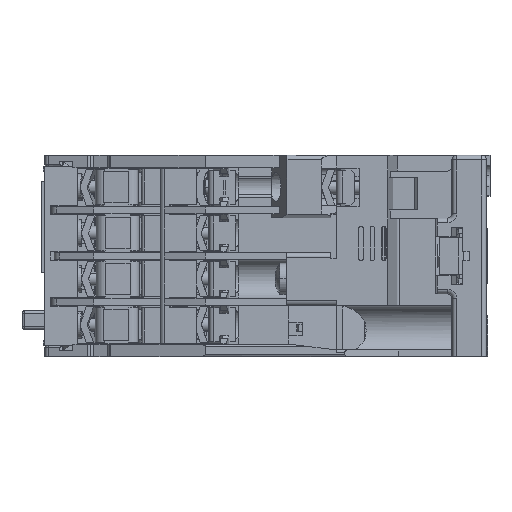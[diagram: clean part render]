
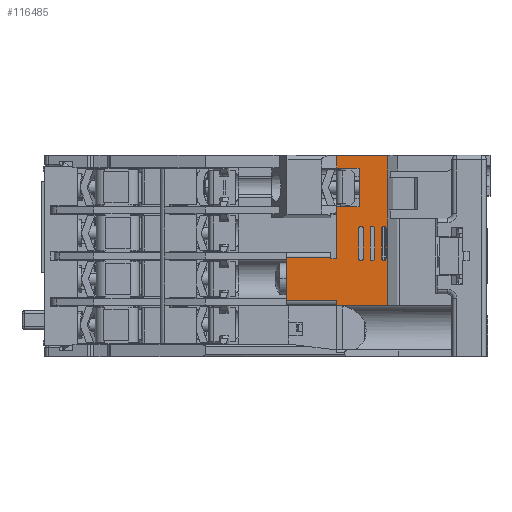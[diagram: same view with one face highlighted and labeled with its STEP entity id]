
A CAD part, left-side view. The second image highlights one B-rep face of the part: STEP entity #116485.
In plain terms, the highlighted planar face has unit normal (-1, 0, 0).
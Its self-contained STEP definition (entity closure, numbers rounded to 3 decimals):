
#9175=DIRECTION('',(0.,1.,0.));
#9176=VECTOR('',#9175,11.);
#9177=CARTESIAN_POINT('',(-38.,-28.7,-9.75));
#9178=LINE('',#9177,#9176);
#9179=DIRECTION('',(0.,0.,1.));
#9180=VECTOR('',#9179,1.);
#9181=CARTESIAN_POINT('',(-38.,-28.7,-10.75));
#9182=LINE('',#9181,#9180);
#9187=DIRECTION('',(0.,1.,0.));
#9188=VECTOR('',#9187,4.9);
#9189=CARTESIAN_POINT('',(-38.,-33.6,10.8));
#9190=LINE('',#9189,#9188);
#9191=DIRECTION('',(0.,0.,-1.));
#9192=VECTOR('',#9191,8.4);
#9193=CARTESIAN_POINT('',(-38.,-33.6,19.2));
#9194=LINE('',#9193,#9192);
#9195=DIRECTION('',(0.,1.,0.));
#9196=VECTOR('',#9195,11.146);
#9197=CARTESIAN_POINT('',(-38.,-39.846,22.));
#9198=LINE('',#9197,#9196);
#9199=DIRECTION('',(0.,0.,1.));
#9200=VECTOR('',#9199,3.45);
#9201=CARTESIAN_POINT('',(-38.,-39.846,18.55));
#9202=LINE('',#9201,#9200);
#9203=DIRECTION('',(0.,-1.,0.));
#9204=VECTOR('',#9203,0.03);
#9205=CARTESIAN_POINT('',(-38.,-39.846,10.05));
#9206=LINE('',#9205,#9204);
#9207=DIRECTION('',(0.,0.,1.));
#9208=VECTOR('',#9207,20.8);
#9209=CARTESIAN_POINT('',(-38.,-39.846,-10.75));
#9210=LINE('',#9209,#9208);
#9211=DIRECTION('',(0.,-1.,0.));
#9212=VECTOR('',#9211,11.146);
#9213=CARTESIAN_POINT('',(-38.,-28.7,-10.75));
#9214=LINE('',#9213,#9212);
#9215=DIRECTION('',(0.,0.,-1.));
#9216=VECTOR('',#9215,9.5);
#9217=CARTESIAN_POINT('',(-38.,-17.7,-0.25));
#9218=LINE('',#9217,#9216);
#9219=DIRECTION('',(0.,0.,1.));
#9220=VECTOR('',#9219,0.3);
#9221=CARTESIAN_POINT('',(-38.,-27.4,-0.55));
#9222=LINE('',#9221,#9220);
#9223=CARTESIAN_POINT('',(-38.,-39.,-0.5));
#9224=DIRECTION('',(1.,0.,0.));
#9225=DIRECTION('',(0.,-1.,0.));
#9226=AXIS2_PLACEMENT_3D('',#9223,#9224,#9225);
#9228=DIRECTION('',(0.,0.,-1.));
#9229=VECTOR('',#9228,6.5);
#9230=CARTESIAN_POINT('',(-38.,-39.5,6.));
#9231=LINE('',#9230,#9229);
#9232=CARTESIAN_POINT('',(-38.,-39.,6.));
#9233=DIRECTION('',(1.,0.,0.));
#9234=DIRECTION('',(0.,1.,0.));
#9235=AXIS2_PLACEMENT_3D('',#9232,#9233,#9234);
#9237=CARTESIAN_POINT('',(-38.,-36.5,-0.5));
#9238=DIRECTION('',(1.,0.,0.));
#9239=DIRECTION('',(0.,-1.,0.));
#9240=AXIS2_PLACEMENT_3D('',#9237,#9238,#9239);
#9242=DIRECTION('',(0.,0.,-1.));
#9243=VECTOR('',#9242,6.5);
#9244=CARTESIAN_POINT('',(-38.,-37.,6.));
#9245=LINE('',#9244,#9243);
#9246=CARTESIAN_POINT('',(-38.,-36.5,6.));
#9247=DIRECTION('',(1.,0.,0.));
#9248=DIRECTION('',(0.,1.,0.));
#9249=AXIS2_PLACEMENT_3D('',#9246,#9247,#9248);
#9251=CARTESIAN_POINT('',(-38.,-34.,-0.5));
#9252=DIRECTION('',(1.,0.,0.));
#9253=DIRECTION('',(0.,-1.,0.));
#9254=AXIS2_PLACEMENT_3D('',#9251,#9252,#9253);
#9256=DIRECTION('',(0.,0.,-1.));
#9257=VECTOR('',#9256,6.5);
#9258=CARTESIAN_POINT('',(-38.,-34.5,6.));
#9259=LINE('',#9258,#9257);
#9260=CARTESIAN_POINT('',(-38.,-34.,6.));
#9261=DIRECTION('',(1.,0.,0.));
#9262=DIRECTION('',(0.,1.,0.));
#9263=AXIS2_PLACEMENT_3D('',#9260,#9261,#9262);
#9269=DIRECTION('',(0.,-1.,0.));
#9270=VECTOR('',#9269,1.3);
#9271=CARTESIAN_POINT('',(-38.,-27.4,-0.55));
#9272=LINE('',#9271,#9270);
#9281=DIRECTION('',(0.,0.,1.));
#9282=VECTOR('',#9281,11.35);
#9283=CARTESIAN_POINT('',(-38.,-28.7,-0.55));
#9284=LINE('',#9283,#9282);
#12364=DIRECTION('',(0.,0.,-1.));
#12365=VECTOR('',#12364,8.5);
#12366=CARTESIAN_POINT('',(-38.,-39.876,18.55));
#12367=LINE('',#12366,#12365);
#37107=DIRECTION('',(0.,0.,-1.));
#37108=VECTOR('',#37107,6.5);
#37109=CARTESIAN_POINT('',(-38.,-38.5,6.));
#37110=LINE('',#37109,#37108);
#39896=DIRECTION('',(0.,-1.,0.));
#39897=VECTOR('',#39896,0.03);
#39898=CARTESIAN_POINT('',(-38.,-39.846,18.55));
#39899=LINE('',#39898,#39897);
#43218=DIRECTION('',(0.,1.,0.));
#43219=VECTOR('',#43218,4.9);
#43220=CARTESIAN_POINT('',(-38.,-33.6,19.2));
#43221=LINE('',#43220,#43219);
#43261=DIRECTION('',(0.,0.,1.));
#43262=VECTOR('',#43261,2.8);
#43263=CARTESIAN_POINT('',(-38.,-28.7,19.2));
#43264=LINE('',#43263,#43262);
#45301=DIRECTION('',(0.,-1.,0.));
#45302=VECTOR('',#45301,9.7);
#45303=CARTESIAN_POINT('',(-38.,-17.7,-0.25));
#45304=LINE('',#45303,#45302);
#72887=DIRECTION('',(0.,0.,-1.));
#72888=VECTOR('',#72887,6.5);
#72889=CARTESIAN_POINT('',(-38.,-33.5,6.));
#72890=LINE('',#72889,#72888);
#72911=DIRECTION('',(0.,0.,-1.));
#72912=VECTOR('',#72911,6.5);
#72913=CARTESIAN_POINT('',(-38.,-36.,6.));
#72914=LINE('',#72913,#72912);
#90665=CARTESIAN_POINT('',(-38.,-17.7,-0.25));
#90666=CARTESIAN_POINT('',(-38.,-17.7,-9.75));
#90667=VERTEX_POINT('',#90665);
#90668=VERTEX_POINT('',#90666);
#90679=CARTESIAN_POINT('',(-38.,-27.4,-0.55));
#90680=CARTESIAN_POINT('',(-38.,-27.4,-0.25));
#90681=VERTEX_POINT('',#90679);
#90682=VERTEX_POINT('',#90680);
#95351=CARTESIAN_POINT('',(-38.,-39.846,22.));
#95352=VERTEX_POINT('',#95351);
#95353=CARTESIAN_POINT('',(-38.,-39.846,18.55));
#95354=VERTEX_POINT('',#95353);
#96017=CARTESIAN_POINT('',(-38.,-33.5,6.));
#96018=VERTEX_POINT('',#96017);
#96019=CARTESIAN_POINT('',(-38.,-33.5,-0.5));
#96020=VERTEX_POINT('',#96019);
#96021=CARTESIAN_POINT('',(-38.,-34.5,6.));
#96022=CARTESIAN_POINT('',(-38.,-34.5,-0.5));
#96023=VERTEX_POINT('',#96021);
#96024=VERTEX_POINT('',#96022);
#96029=CARTESIAN_POINT('',(-38.,-36.,6.));
#96030=CARTESIAN_POINT('',(-38.,-36.,-0.5));
#96031=VERTEX_POINT('',#96029);
#96032=VERTEX_POINT('',#96030);
#96037=CARTESIAN_POINT('',(-38.,-37.,6.));
#96038=CARTESIAN_POINT('',(-38.,-37.,-0.5));
#96039=VERTEX_POINT('',#96037);
#96040=VERTEX_POINT('',#96038);
#96045=CARTESIAN_POINT('',(-38.,-38.5,6.));
#96046=CARTESIAN_POINT('',(-38.,-38.5,-0.5));
#96047=VERTEX_POINT('',#96045);
#96048=VERTEX_POINT('',#96046);
#96053=CARTESIAN_POINT('',(-38.,-39.5,6.));
#96054=CARTESIAN_POINT('',(-38.,-39.5,-0.5));
#96055=VERTEX_POINT('',#96053);
#96056=VERTEX_POINT('',#96054);
#96099=CARTESIAN_POINT('',(-38.,-33.6,10.8));
#96100=VERTEX_POINT('',#96099);
#96101=CARTESIAN_POINT('',(-38.,-33.6,19.2));
#96102=VERTEX_POINT('',#96101);
#96105=CARTESIAN_POINT('',(-38.,-28.7,10.8));
#96106=VERTEX_POINT('',#96105);
#96107=CARTESIAN_POINT('',(-38.,-28.7,19.2));
#96108=VERTEX_POINT('',#96107);
#96185=CARTESIAN_POINT('',(-38.,-39.846,-10.75));
#96186=VERTEX_POINT('',#96185);
#96187=CARTESIAN_POINT('',(-38.,-28.7,-10.75));
#96188=VERTEX_POINT('',#96187);
#96812=CARTESIAN_POINT('',(-38.,-28.7,22.));
#96813=VERTEX_POINT('',#96812);
#96830=CARTESIAN_POINT('',(-38.,-39.846,10.05));
#96831=VERTEX_POINT('',#96830);
#96832=CARTESIAN_POINT('',(-38.,-39.876,10.05));
#96833=VERTEX_POINT('',#96832);
#96834=CARTESIAN_POINT('',(-38.,-39.876,18.55));
#96835=VERTEX_POINT('',#96834);
#97560=CARTESIAN_POINT('',(-38.,-28.7,-0.55));
#97561=VERTEX_POINT('',#97560);
#97567=CARTESIAN_POINT('',(-38.,-28.7,-9.75));
#97569=VERTEX_POINT('',#97567);
#116415=CARTESIAN_POINT('',(-38.,-28.7,-10.6));
#116416=DIRECTION('',(-1.,0.,0.));
#116417=DIRECTION('',(0.,0.,1.));
#116418=AXIS2_PLACEMENT_3D('',#116415,#116416,#116417);
#116419=PLANE('',#116418);
#116421=ORIENTED_EDGE('',*,*,#116420,.T.);
#116423=ORIENTED_EDGE('',*,*,#116422,.T.);
#116425=ORIENTED_EDGE('',*,*,#116424,.F.);
#116427=ORIENTED_EDGE('',*,*,#116426,.F.);
#116429=ORIENTED_EDGE('',*,*,#116428,.T.);
#116431=ORIENTED_EDGE('',*,*,#116430,.T.);
#116433=ORIENTED_EDGE('',*,*,#116432,.F.);
#116435=ORIENTED_EDGE('',*,*,#116434,.F.);
#116437=ORIENTED_EDGE('',*,*,#116436,.T.);
#116439=ORIENTED_EDGE('',*,*,#116438,.T.);
#116441=ORIENTED_EDGE('',*,*,#116440,.F.);
#116443=ORIENTED_EDGE('',*,*,#116442,.F.);
#116444=ORIENTED_EDGE('',*,*,#116318,.F.);
#116445=ORIENTED_EDGE('',*,*,#116409,.T.);
#116446=ORIENTED_EDGE('',*,*,#116398,.T.);
#116448=ORIENTED_EDGE('',*,*,#116447,.F.);
#116450=ORIENTED_EDGE('',*,*,#116449,.T.);
#116452=ORIENTED_EDGE('',*,*,#116451,.F.);
#116453=EDGE_LOOP('',(#116421,#116423,#116425,#116427,#116429,#116431,#116433,
#116435,#116437,#116439,#116441,#116443,#116444,#116445,#116446,#116448,#116450,
#116452));
#116454=FACE_OUTER_BOUND('',#116453,.F.);
#116456=ORIENTED_EDGE('',*,*,#116455,.F.);
#116458=ORIENTED_EDGE('',*,*,#116457,.F.);
#116460=ORIENTED_EDGE('',*,*,#116459,.F.);
#116462=ORIENTED_EDGE('',*,*,#116461,.T.);
#116463=EDGE_LOOP('',(#116456,#116458,#116460,#116462));
#116464=FACE_BOUND('',#116463,.F.);
#116466=ORIENTED_EDGE('',*,*,#116465,.F.);
#116468=ORIENTED_EDGE('',*,*,#116467,.F.);
#116470=ORIENTED_EDGE('',*,*,#116469,.F.);
#116472=ORIENTED_EDGE('',*,*,#116471,.T.);
#116473=EDGE_LOOP('',(#116466,#116468,#116470,#116472));
#116474=FACE_BOUND('',#116473,.F.);
#116476=ORIENTED_EDGE('',*,*,#116475,.F.);
#116478=ORIENTED_EDGE('',*,*,#116477,.F.);
#116480=ORIENTED_EDGE('',*,*,#116479,.F.);
#116482=ORIENTED_EDGE('',*,*,#116481,.T.);
#116483=EDGE_LOOP('',(#116476,#116478,#116480,#116482));
#116484=FACE_BOUND('',#116483,.F.);
#116485=ADVANCED_FACE('',(#116454,#116464,#116474,#116484),#116419,.T.);
#9227=CIRCLE('',#9226,0.5);
#9236=CIRCLE('',#9235,0.5);
#9241=CIRCLE('',#9240,0.5);
#9250=CIRCLE('',#9249,0.5);
#9255=CIRCLE('',#9254,0.5);
#9264=CIRCLE('',#9263,0.5);
#116318=EDGE_CURVE('',#96188,#96186,#9214,.T.);
#116398=EDGE_CURVE('',#97569,#90668,#9178,.T.);
#116409=EDGE_CURVE('',#96188,#97569,#9182,.T.);
#116420=EDGE_CURVE('',#90681,#97561,#9272,.T.);
#116422=EDGE_CURVE('',#97561,#96106,#9284,.T.);
#116424=EDGE_CURVE('',#96100,#96106,#9190,.T.);
#116426=EDGE_CURVE('',#96102,#96100,#9194,.T.);
#116428=EDGE_CURVE('',#96102,#96108,#43221,.T.);
#116430=EDGE_CURVE('',#96108,#96813,#43264,.T.);
#116432=EDGE_CURVE('',#95352,#96813,#9198,.T.);
#116434=EDGE_CURVE('',#95354,#95352,#9202,.T.);
#116436=EDGE_CURVE('',#95354,#96835,#39899,.T.);
#116438=EDGE_CURVE('',#96835,#96833,#12367,.T.);
#116440=EDGE_CURVE('',#96831,#96833,#9206,.T.);
#116442=EDGE_CURVE('',#96186,#96831,#9210,.T.);
#116447=EDGE_CURVE('',#90667,#90668,#9218,.T.);
#116449=EDGE_CURVE('',#90667,#90682,#45304,.T.);
#116451=EDGE_CURVE('',#90681,#90682,#9222,.T.);
#116455=EDGE_CURVE('',#96056,#96048,#9227,.T.);
#116457=EDGE_CURVE('',#96055,#96056,#9231,.T.);
#116459=EDGE_CURVE('',#96047,#96055,#9236,.T.);
#116461=EDGE_CURVE('',#96047,#96048,#37110,.T.);
#116465=EDGE_CURVE('',#96040,#96032,#9241,.T.);
#116467=EDGE_CURVE('',#96039,#96040,#9245,.T.);
#116469=EDGE_CURVE('',#96031,#96039,#9250,.T.);
#116471=EDGE_CURVE('',#96031,#96032,#72914,.T.);
#116475=EDGE_CURVE('',#96024,#96020,#9255,.T.);
#116477=EDGE_CURVE('',#96023,#96024,#9259,.T.);
#116479=EDGE_CURVE('',#96018,#96023,#9264,.T.);
#116481=EDGE_CURVE('',#96018,#96020,#72890,.T.);
